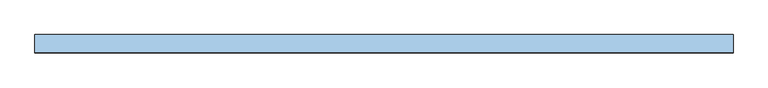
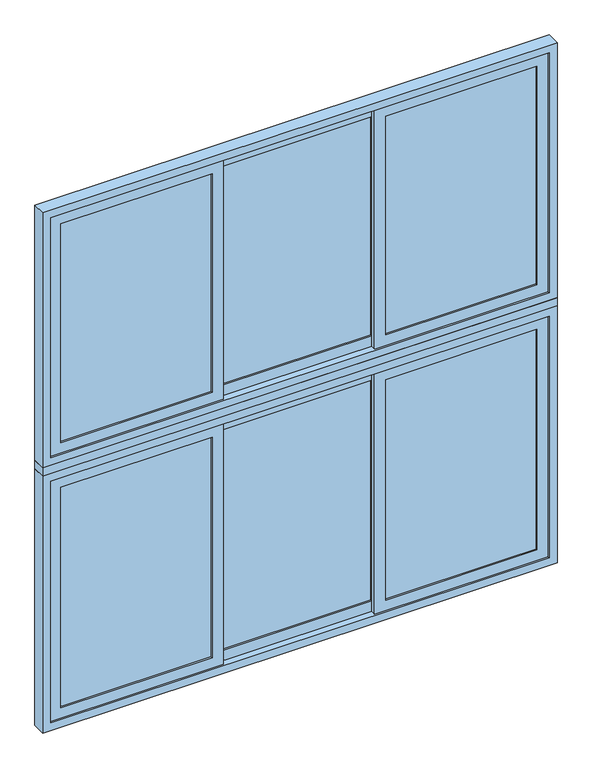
"""IFC4 building model written with IfcOpenShell, lengths in millimetres: window geometry, A10 Ventana_Corrediza_3 hojas : A10 Ventana_Corrediza_3 hojas 290x310."""

from ifc_helpers import new_model, si_unit, frame, origin, place, context, project, spatial, polyline, outline, extrude, source, transform, mapped, element, save


def window_6422c5cf(model_context):
    return source(origin(), model_context, "Body", "SweptSolid", [
        extrude(outline(polyline([(1530.0, -1450.0), (0.0, -1450.0), (0.0, 1450.0), (1530.0, 1450.0), (1530.0, -1450.0)]), holes=[polyline([(1485.0, -1405.0), (1485.0, 1405.0), (45.0, 1405.0), (45.0, -1405.0), (1485.0, -1405.0)])]), frame((0.0, 12.5, 0.0), z_axis=(0.0, 1.0, 0.0), x_axis=(0.0, 0.0, 1.0)), (0.0, 0.0, 1.0), 75.0),
        extrude(outline(polyline([(3100.0, -1450.0), (1580.0, -1450.0), (1580.0, 1450.0), (3100.0, 1450.0), (3100.0, -1450.0)]), holes=[polyline([(3055.0, -1405.0), (3055.0, 1405.0), (1625.0, 1405.0), (1625.0, -1405.0), (3055.0, -1405.0)])]), frame((0.0, 12.5, 0.0), z_axis=(0.0, 1.0, 0.0), x_axis=(0.0, 0.0, 1.0)), (0.0, 0.0, 1.0), 75.0),
        extrude(outline(polyline([(1450.0, 12.5), (-1450.0, 12.5), (-1450.0, 87.5), (1450.0, 87.5), (1450.0, 12.5)])), frame((0.0, 0.0, 1530.0), z_axis=(0.0, 0.0, 1.0), x_axis=(1.0, 0.0, 0.0)), (0.0, 0.0, 1.0), 50.0),
        extrude(outline(polyline([(1342.0, 31.5769719), (489.3333333, 31.5769719), (489.3333333, 40.4230281), (1342.0, 40.4230281), (1342.0, 31.5769719)])), frame((0.0, 0.0, 1688.0), z_axis=(0.0, 0.0, 1.0), x_axis=(1.0, 0.0, 0.0)), (0.0, 0.0, 1.0), 1304.0),
        extrude(outline(polyline([(1342.0, 31.5769719), (489.3333333, 31.5769719), (489.3333333, 40.4230281), (1342.0, 40.4230281), (1342.0, 31.5769719)])), frame((0.0, 0.0, 108.0), z_axis=(0.0, 0.0, 1.0), x_axis=(1.0, 0.0, 0.0)), (0.0, 0.0, 1.0), 1314.0),
        extrude(outline(polyline([(45.0, 426.3333333), (45.0, 1405.0), (1485.0, 1405.0), (1485.0, 426.3333333), (45.0, 426.3333333)]), holes=[polyline([(108.0, 489.3333333), (1422.0, 489.3333333), (1422.0, 1342.0), (108.0, 1342.0), (108.0, 489.3333333)])]), frame((0.0, 22.0, 0.0), z_axis=(0.0, 1.0, 0.0), x_axis=(0.0, 0.0, 1.0)), (0.0, 0.0, 1.0), 28.0),
        extrude(outline(polyline([(3055.0, 426.3333333), (1625.0, 426.3333333), (1625.0, 1405.0), (3055.0, 1405.0), (3055.0, 426.3333333)]), holes=[polyline([(1688.0, 489.3333333), (2992.0, 489.3333333), (2992.0, 1342.0), (1688.0, 1342.0), (1688.0, 489.3333333)])]), frame((0.0, 22.0, 0.0), z_axis=(0.0, 1.0, 0.0), x_axis=(0.0, 0.0, 1.0)), (0.0, 0.0, 1.0), 28.0),
        extrude(outline(polyline([(-489.3333333, 31.5769719), (-1342.0, 31.5769719), (-1342.0, 40.4230281), (-489.3333333, 40.4230281), (-489.3333333, 31.5769719)])), frame((0.0, 0.0, 1688.0), z_axis=(0.0, 0.0, 1.0), x_axis=(1.0, 0.0, 0.0)), (0.0, 0.0, 1.0), 1304.0),
        extrude(outline(polyline([(-489.3333333, 31.5769719), (-1342.0, 31.5769719), (-1342.0, 40.4230281), (-489.3333333, 40.4230281), (-489.3333333, 31.5769719)])), frame((0.0, 0.0, 108.0), z_axis=(0.0, 0.0, 1.0), x_axis=(1.0, 0.0, 0.0)), (0.0, 0.0, 1.0), 1314.0),
        extrude(outline(polyline([(426.3333333, 59.5769719), (-426.3333333, 59.5769719), (-426.3333333, 68.4230281), (426.3333333, 68.4230281), (426.3333333, 59.5769719)])), frame((0.0, 0.0, 1688.0), z_axis=(0.0, 0.0, 1.0), x_axis=(1.0, 0.0, 0.0)), (0.0, 0.0, 1.0), 1304.0),
        extrude(outline(polyline([(426.3333333, 59.5769719), (-426.3333333, 59.5769719), (-426.3333333, 68.4230281), (426.3333333, 68.4230281), (426.3333333, 59.5769719)])), frame((0.0, 0.0, 108.0), z_axis=(0.0, 0.0, 1.0), x_axis=(1.0, 0.0, 0.0)), (0.0, 0.0, 1.0), 1314.0),
        extrude(outline(polyline([(45.0, -1405.0), (45.0, -426.3333333), (1485.0, -426.3333333), (1485.0, -1405.0), (45.0, -1405.0)]), holes=[polyline([(108.0, -1342.0), (1422.0, -1342.0), (1422.0, -489.3333333), (108.0, -489.3333333), (108.0, -1342.0)])]), frame((0.0, 22.0, 0.0), z_axis=(0.0, 1.0, 0.0), x_axis=(0.0, 0.0, 1.0)), (0.0, 0.0, 1.0), 28.0),
        extrude(outline(polyline([(3055.0, -1405.0), (1625.0, -1405.0), (1625.0, -426.3333333), (3055.0, -426.3333333), (3055.0, -1405.0)]), holes=[polyline([(1688.0, -1342.0), (2992.0, -1342.0), (2992.0, -489.3333333), (1688.0, -489.3333333), (1688.0, -1342.0)])]), frame((0.0, 22.0, 0.0), z_axis=(0.0, 1.0, 0.0), x_axis=(0.0, 0.0, 1.0)), (0.0, 0.0, 1.0), 28.0),
        extrude(outline(polyline([(1485.0, 489.3333333), (1485.0, -489.3333333), (45.0, -489.3333333), (45.0, 489.3333333), (1485.0, 489.3333333)]), holes=[polyline([(1422.0, -426.3333333), (1422.0, 426.3333333), (108.0, 426.3333333), (108.0, -426.3333333), (1422.0, -426.3333333)])]), frame((0.0, 50.0, 0.0), z_axis=(0.0, 1.0, 0.0), x_axis=(0.0, 0.0, 1.0)), (0.0, 0.0, 1.0), 28.0),
        extrude(outline(polyline([(1625.0, -489.3333333), (1625.0, 489.3333333), (3055.0, 489.3333333), (3055.0, -489.3333333), (1625.0, -489.3333333)]), holes=[polyline([(2992.0, -426.3333333), (2992.0, 426.3333333), (1688.0, 426.3333333), (1688.0, -426.3333333), (2992.0, -426.3333333)])]), frame((0.0, 50.0, 0.0), z_axis=(0.0, 1.0, 0.0), x_axis=(0.0, 0.0, 1.0)), (0.0, 0.0, 1.0), 28.0),
    ])


if __name__ == "__main__":
    model = new_model("IFC4")
    model_context = context("Model", 3, world=origin())
    ifc_project = project(units=[si_unit("LENGTHUNIT", "METRE", prefix="MILLI")], contexts=[model_context])
    site = spatial("IfcSite", under=ifc_project)
    building = spatial("IfcBuilding", under=site)
    placement = place(None, origin())
    window_shape = window_6422c5cf(model_context)
    element("IfcWindow", 1, ObjectType="A10 Ventana_Corrediza_3 hojas : A10 Ventana_Corrediza_3 hojas 290x310", at=placement, inside=building, context=model_context, shape_type="MappedRepresentation", body=[
        mapped(window_shape, transform((0.0, 0.0, 0.0), x_axis=(1.0, 0.0, 0.0), y_axis=(0.0, 1.0, 0.0), z_axis=(0.0, 0.0, 1.0))),
    ])
    save(model, "model.ifc")
